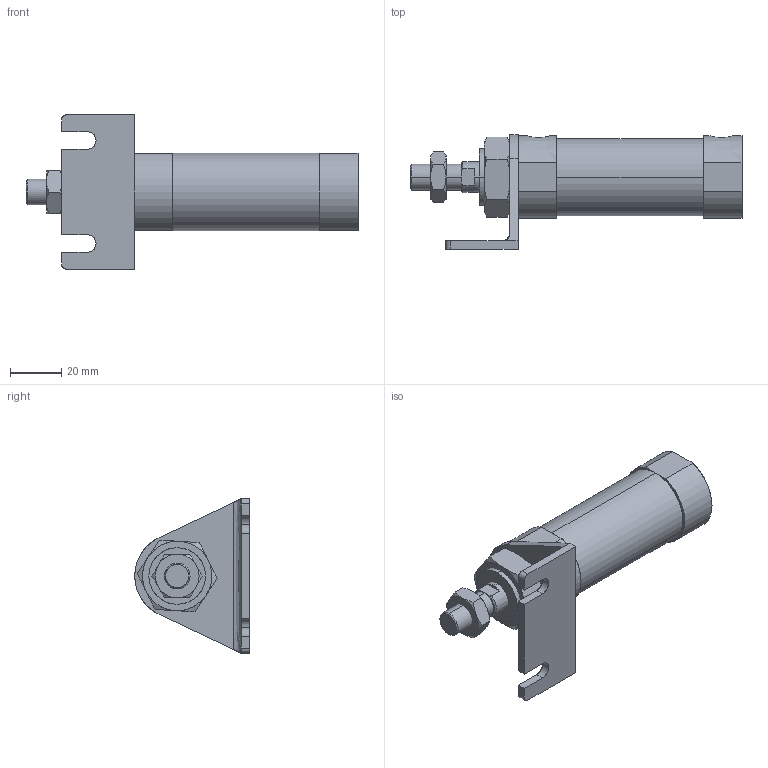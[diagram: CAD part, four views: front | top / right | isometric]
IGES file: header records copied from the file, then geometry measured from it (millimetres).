
Start section: SolidWorks IGES file using analytic representation for surfaces
Global section: file name: C:\Users\Toshiba\Desktop\JGND2-25-25-L.IGS; native system: SolidWorks 2014; preprocessor: SolidWorks 2014; author: Toshiba; date: 160804.103437; units: millimetre
Bounding box: 129 x 44.5 x 60 mm (x, y, z)
Surface area: 22770.7 mm2 (no closed solid volume)
Topology: 0 solids, 0 shells, 115 faces, 1928 edges, 1924 vertices
Faces by surface type: bspline 74, revolution 41
